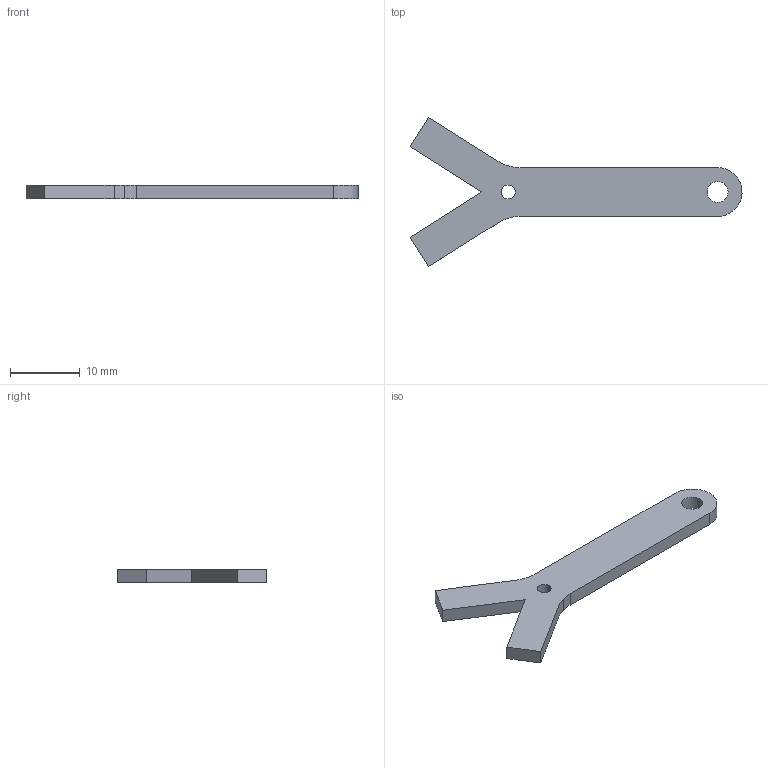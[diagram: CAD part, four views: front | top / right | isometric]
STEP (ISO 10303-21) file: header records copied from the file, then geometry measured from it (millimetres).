
FILE_DESCRIPTION(('STEP AP214'),'1');
FILE_NAME('tmp0.step','2025-08-08T10:05:28',(' '),(' '),'Spatial InterOp 3D',' ',' ');
FILE_SCHEMA(('AUTOMOTIVE_DESIGN { 1 0 10303 214 1 1 1 1 }'));
Length unit declared in the file: millimetre
Products named in the file (1): 1
Bounding box: 47.64 x 21.41 x 2 mm (x, y, z)
Volume: 723.5 mm3; surface area: 1019.1 mm2
Topology: 1 solids, 1 shells, 20 faces, 54 edges, 36 vertices
Faces by surface type: cylinder 10, plane 10
Entity records: 671 total; most frequent: DIRECTION 116, CARTESIAN_POINT 111, ORIENTED_EDGE 108, EDGE_CURVE 54, AXIS2_PLACEMENT_3D 41, VERTEX_POINT 36, LINE 34, VECTOR 34
